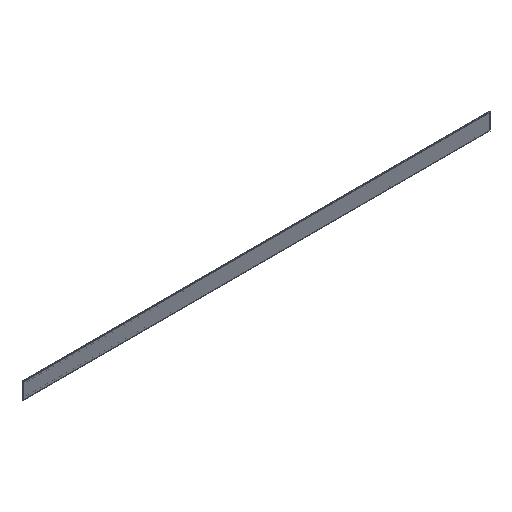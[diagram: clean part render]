
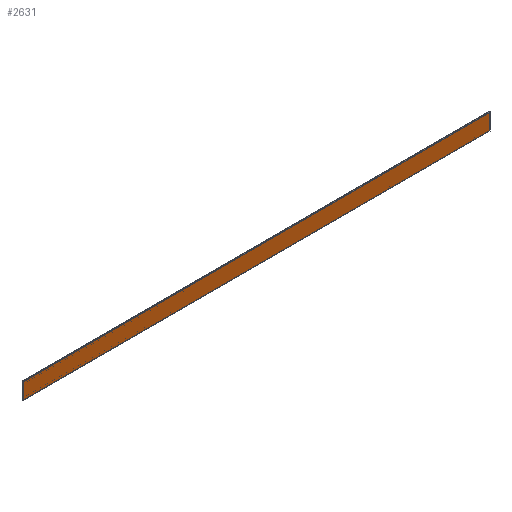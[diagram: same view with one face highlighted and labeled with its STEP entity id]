
A CAD part, isometric view. The second image highlights one B-rep face of the part: STEP entity #2631.
In plain terms, the highlighted planar face has unit normal (0, -1, 0).
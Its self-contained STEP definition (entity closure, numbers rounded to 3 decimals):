
#112 = CARTESIAN_POINT ( 'NONE',  ( 0., 0., 0. ) ) ;
#122 = EDGE_CURVE ( 'NONE', #3584, #1678, #768, .T. ) ;
#235 = DIRECTION ( 'NONE',  ( 1., 0., 0. ) ) ;
#407 = VERTEX_POINT ( 'NONE', #1382 ) ;
#572 = LINE ( 'NONE', #1681, #1133 ) ;
#580 = CARTESIAN_POINT ( 'NONE',  ( -109.7, 0., -3.7 ) ) ;
#768 = LINE ( 'NONE', #2801, #2484 ) ;
#780 = ORIENTED_EDGE ( 'NONE', *, *, #800, .T. ) ;
#800 = EDGE_CURVE ( 'NONE', #407, #2276, #1081, .T. ) ;
#835 = CARTESIAN_POINT ( 'NONE',  ( -109.7, 0., 3.7 ) ) ;
#902 = AXIS2_PLACEMENT_3D ( 'NONE', #112, #1751, #3155 ) ;
#908 = FACE_OUTER_BOUND ( 'NONE', #1199, .T. ) ;
#1081 = LINE ( 'NONE', #580, #1602 ) ;
#1125 = LINE ( 'NONE', #2810, #3015 ) ;
#1133 = VECTOR ( 'NONE', #1403, 1000. ) ;
#1162 = CARTESIAN_POINT ( 'NONE',  ( 109.7, 0., 3.7 ) ) ;
#1199 = EDGE_LOOP ( 'NONE', ( #780, #1970, #3492, #2437 ) ) ;
#1353 = DIRECTION ( 'NONE',  ( -1., 0., 0. ) ) ;
#1382 = CARTESIAN_POINT ( 'NONE',  ( -109.7, 0., -3.7 ) ) ;
#1403 = DIRECTION ( 'NONE',  ( 0., 0., -1. ) ) ;
#1457 = PLANE ( 'NONE',  #902 ) ;
#1602 = VECTOR ( 'NONE', #235, 1000. ) ;
#1678 = VERTEX_POINT ( 'NONE', #835 ) ;
#1681 = CARTESIAN_POINT ( 'NONE',  ( -109.7, 0., 3.7 ) ) ;
#1751 = DIRECTION ( 'NONE',  ( 0., 1., 0. ) ) ;
#1970 = ORIENTED_EDGE ( 'NONE', *, *, #2122, .T. ) ;
#2122 = EDGE_CURVE ( 'NONE', #2276, #3584, #1125, .T. ) ;
#2276 = VERTEX_POINT ( 'NONE', #3286 ) ;
#2437 = ORIENTED_EDGE ( 'NONE', *, *, #2563, .T. ) ;
#2484 = VECTOR ( 'NONE', #1353, 1000. ) ;
#2563 = EDGE_CURVE ( 'NONE', #1678, #407, #572, .T. ) ;
#2631 = ADVANCED_FACE ( 'NONE', ( #908 ), #1457, .F. ) ;
#2801 = CARTESIAN_POINT ( 'NONE',  ( 109.7, 0., 3.7 ) ) ;
#2810 = CARTESIAN_POINT ( 'NONE',  ( 109.7, 0., -3.7 ) ) ;
#3015 = VECTOR ( 'NONE', #3406, 1000. ) ;
#3155 = DIRECTION ( 'NONE',  ( 0., 0., 1. ) ) ;
#3286 = CARTESIAN_POINT ( 'NONE',  ( 109.7, 0., -3.7 ) ) ;
#3406 = DIRECTION ( 'NONE',  ( 0., 0., 1. ) ) ;
#3492 = ORIENTED_EDGE ( 'NONE', *, *, #122, .T. ) ;
#3584 = VERTEX_POINT ( 'NONE', #1162 ) ;
